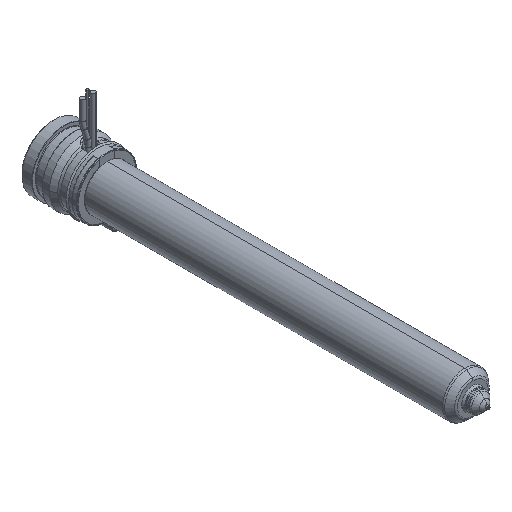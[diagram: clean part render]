
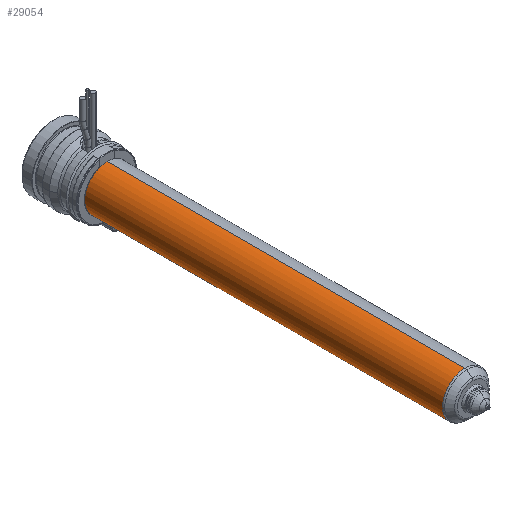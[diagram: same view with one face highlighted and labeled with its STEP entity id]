
A CAD part, isometric view. The second image highlights one B-rep face of the part: STEP entity #29054.
In plain terms, the highlighted cylindrical face has radius 9 mm (diameter 18 mm), a partial arc.
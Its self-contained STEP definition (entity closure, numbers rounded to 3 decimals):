
#28443=CARTESIAN_POINT('',(0.,-165.836,0.));
#28444=DIRECTION('',(0.,-1.,0.));
#28445=DIRECTION('',(0.,0.,1.));
#28446=AXIS2_PLACEMENT_3D('',#28443,#28444,#28445);
#28451=CARTESIAN_POINT('',(0.,-22.,0.));
#28452=DIRECTION('',(0.,-1.,0.));
#28453=DIRECTION('',(0.,0.,1.));
#28454=AXIS2_PLACEMENT_3D('',#28451,#28452,#28453);
#28459=DIRECTION('',(0.,-1.,0.));
#28460=VECTOR('',#28459,143.836);
#28461=CARTESIAN_POINT('',(0.,-22.,9.));
#28462=LINE('',#28461,#28460);
#28474=DIRECTION('',(0.,-1.,0.));
#28475=VECTOR('',#28474,143.836);
#28476=CARTESIAN_POINT('',(0.,-22.,-9.));
#28477=LINE('',#28476,#28475);
#28671=CARTESIAN_POINT('',(0.,-22.,9.));
#28672=CARTESIAN_POINT('',(0.,-165.836,9.));
#28673=VERTEX_POINT('',#28671);
#28674=VERTEX_POINT('',#28672);
#28697=CARTESIAN_POINT('',(0.,-22.,-9.));
#28698=CARTESIAN_POINT('',(0.,-165.836,-9.));
#28699=VERTEX_POINT('',#28697);
#28700=VERTEX_POINT('',#28698);
#29040=CARTESIAN_POINT('',(0.,-10.125,0.));
#29041=DIRECTION('',(0.,-1.,0.));
#29042=DIRECTION('',(0.,0.,1.));
#29043=AXIS2_PLACEMENT_3D('',#29040,#29041,#29042);
#29044=CYLINDRICAL_SURFACE('',#29043,9.);
#29046=ORIENTED_EDGE('',*,*,#29045,.T.);
#29047=ORIENTED_EDGE('',*,*,#29035,.T.);
#29049=ORIENTED_EDGE('',*,*,#29048,.F.);
#29051=ORIENTED_EDGE('',*,*,#29050,.F.);
#29052=EDGE_LOOP('',(#29046,#29047,#29049,#29051));
#29053=FACE_OUTER_BOUND('',#29052,.F.);
#29054=ADVANCED_FACE('',(#29053),#29044,.T.);
#28447=CIRCLE('',#28446,9.);
#28455=CIRCLE('',#28454,9.);
#29035=EDGE_CURVE('',#28674,#28700,#28447,.T.);
#29045=EDGE_CURVE('',#28673,#28674,#28462,.T.);
#29048=EDGE_CURVE('',#28699,#28700,#28477,.T.);
#29050=EDGE_CURVE('',#28673,#28699,#28455,.T.);
